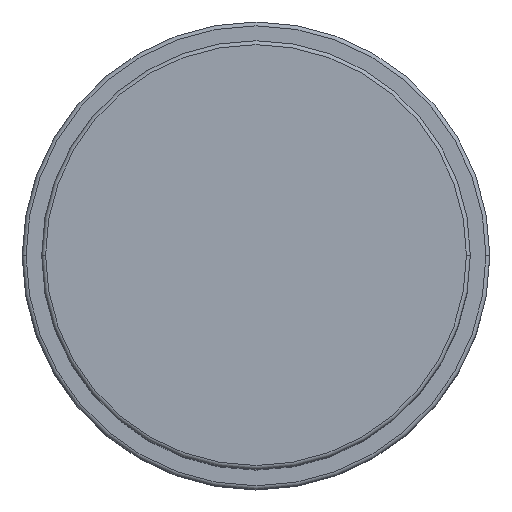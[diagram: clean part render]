
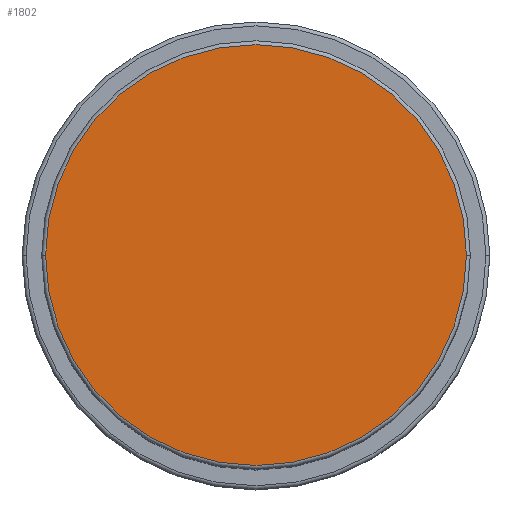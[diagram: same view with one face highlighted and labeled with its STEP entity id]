
A CAD part, top view. The second image highlights one B-rep face of the part: STEP entity #1802.
In plain terms, the highlighted planar face has unit normal (0, 0, 1).
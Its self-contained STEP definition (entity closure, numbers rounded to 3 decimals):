
#161 = ORIENTED_EDGE ( 'NONE', *, *, #1406, .T. ) ;
#215 = ORIENTED_EDGE ( 'NONE', *, *, #1155, .T. ) ;
#361 = CARTESIAN_POINT ( 'NONE',  ( 0., 0., 81. ) ) ;
#506 = VERTEX_POINT ( 'NONE', #1077 ) ;
#567 = AXIS2_PLACEMENT_3D ( 'NONE', #1235, #780, #793 ) ;
#716 = DIRECTION ( 'NONE',  ( 1., 0., 0. ) ) ;
#723 = CARTESIAN_POINT ( 'NONE',  ( -27., 0., 81. ) ) ;
#761 = CIRCLE ( 'NONE', #769, 27. ) ;
#769 = AXIS2_PLACEMENT_3D ( 'NONE', #1324, #1627, #716 ) ;
#780 = DIRECTION ( 'NONE',  ( 0., 0., 1. ) ) ;
#793 = DIRECTION ( 'NONE',  ( 1., 0., 0. ) ) ;
#818 = VERTEX_POINT ( 'NONE', #723 ) ;
#1077 = CARTESIAN_POINT ( 'NONE',  ( 27., 0., 81. ) ) ;
#1123 = AXIS2_PLACEMENT_3D ( 'NONE', #361, #1461, #1126 ) ;
#1126 = DIRECTION ( 'NONE',  ( 1., 0., 0. ) ) ;
#1155 = EDGE_CURVE ( 'NONE', #506, #818, #1862, .T. ) ;
#1199 = FACE_OUTER_BOUND ( 'NONE', #1870, .T. ) ;
#1235 = CARTESIAN_POINT ( 'NONE',  ( 0., 0., 81. ) ) ;
#1324 = CARTESIAN_POINT ( 'NONE',  ( 0., 0., 81. ) ) ;
#1406 = EDGE_CURVE ( 'NONE', #818, #506, #761, .T. ) ;
#1461 = DIRECTION ( 'NONE',  ( 0., 0., 1. ) ) ;
#1627 = DIRECTION ( 'NONE',  ( 0., 0., 1. ) ) ;
#1802 = ADVANCED_FACE ( 'NONE', ( #1199 ), #1895, .T. ) ;
#1862 = CIRCLE ( 'NONE', #567, 27. ) ;
#1870 = EDGE_LOOP ( 'NONE', ( #215, #161 ) ) ;
#1895 = PLANE ( 'NONE',  #1123 ) ;
